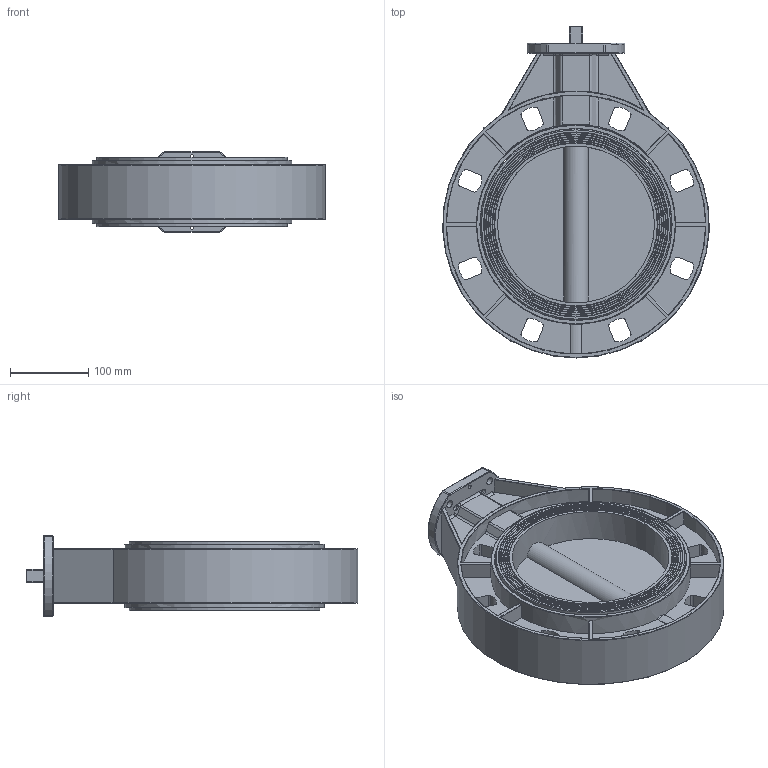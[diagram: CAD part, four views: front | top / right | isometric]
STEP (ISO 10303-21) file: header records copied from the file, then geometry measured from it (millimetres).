
FILE_DESCRIPTION(('STEP AP242'), '1');
FILE_NAME('WBV4242E-2W-Fb-ISO 青蜮铕 滂耜钼 DN.ru 捏200 畜10', '', ('UNSPECIFIED'), ('UNSPECIFIED'), 'C3D Converter', 'C3D Toolkit', '');
FILE_SCHEMA(('AP242_MANAGED_MODEL_BASED_3D_ENGINEERING_MIM_LF { 1 0 10303 442 1 1 4 }'));
Length unit declared in the file: millimetre
Products named in the file (1): WBV4242E-2W-Fb-ISO
Bounding box: 339.72 x 423 x 102 mm (x, y, z)
Volume: 3693926.7 mm3; surface area: 605084 mm2
Topology: 1 solids, 3 shells, 437 faces, 1124 edges, 711 vertices
Faces by surface type: cylinder 169, plane 149, torus 74, cone 25, bspline 14, sphere 6
Full cylindrical faces by diameter (mm): 3.132 x2, 3.5 x2, 4 x2, 5 x4, 8 x4, 10 x4, 32 x2, 49.6 x1, 50 x1, 200 x2, 243.2 x1, 244 x1, 254 x2
Entity records: 26247 total; most frequent: CARTESIAN_POINT 12295, DIRECTION 2138, ORIENTED_EDGE 2122, EDGE_CURVE 1061, AXIS2_PLACEMENT_3D 868, VERTEX_POINT 709, EDGE_LOOP 556, FACE_BOUND 476
